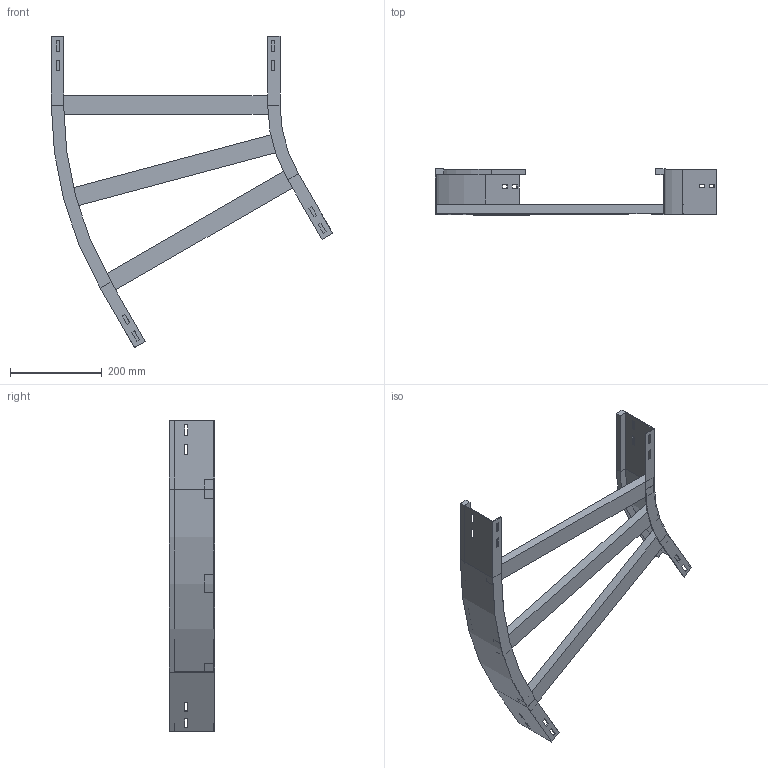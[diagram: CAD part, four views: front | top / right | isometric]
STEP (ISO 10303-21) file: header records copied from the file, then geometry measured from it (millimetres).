
FILE_DESCRIPTION (( 'STEP AP214' ), '1' );
FILE_NAME ('A2_12B3D500.step', '2025-02-21T15:07:17', ( '' ), ( '' ), 'SwSTEP 2.0', 'SolidWorks 2023', '' );
FILE_SCHEMA (( 'AUTOMOTIVE_DESIGN' ));
Length unit declared in the file: millimetre
Products named in the file (4): A2_12B3D500; A2_LONGH.INTERNO 30°_H100_R300; TRAVERSINO_500; A2_LONGH.ESTERNO 30°_H100_R300+500
Assembly tree (5 placements, depth 2):
  A2_12B3D500
    A2_LONGH.INTERNO 30°_H100_R300
    A2_LONGH.ESTERNO 30°_H100_R300+500
    TRAVERSINO_500  x3
Bounding box: 615.19 x 100 x 679.9 mm (x, y, z)
Volume: 1720125.7 mm3; surface area: 519928.2 mm2
Topology: 5 solids, 5 shells, 134 faces, 340 edges, 216 vertices
Faces by surface type: plane 126, cylinder 8
Entity records: 3821 total; most frequent: CARTESIAN_POINT 646, ORIENTED_EDGE 632, DIRECTION 592, EDGE_CURVE 316, LINE 300, VECTOR 300, VERTEX_POINT 200, EDGE_LOOP 154
